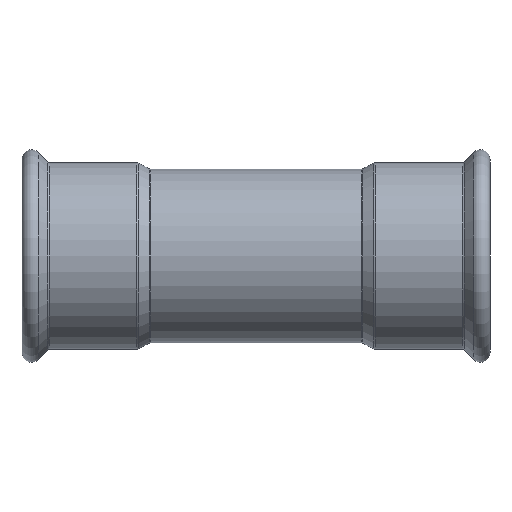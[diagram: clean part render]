
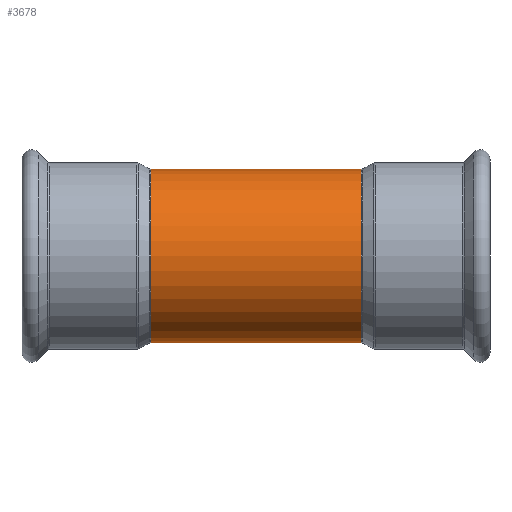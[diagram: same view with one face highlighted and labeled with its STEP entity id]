
A CAD part, front view. The second image highlights one B-rep face of the part: STEP entity #3678.
In plain terms, the highlighted cylindrical face has radius 26.7 mm (diameter 53.4 mm), a partial arc.
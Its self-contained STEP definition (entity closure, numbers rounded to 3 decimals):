
#250 = FACE_OUTER_BOUND ( 'NONE', #2344, .T. ) ;
#288 = EDGE_CURVE ( 'NONE', #609, #2639, #1083, .T. ) ;
#294 = CARTESIAN_POINT ( 'NONE',  ( 0., 0., 0. ) ) ;
#332 = ORIENTED_EDGE ( 'NONE', *, *, #3600, .T. ) ;
#434 = DIRECTION ( 'NONE',  ( 0., 0., 1. ) ) ;
#479 = VECTOR ( 'NONE', #1134, 1000. ) ;
#609 = VERTEX_POINT ( 'NONE', #3923 ) ;
#801 = LINE ( 'NONE', #2493, #479 ) ;
#826 = ORIENTED_EDGE ( 'NONE', *, *, #288, .F. ) ;
#981 = DIRECTION ( 'NONE',  ( 0., 0., 1. ) ) ;
#1083 = LINE ( 'NONE', #3361, #3284 ) ;
#1134 = DIRECTION ( 'NONE',  ( -1., 0., 0. ) ) ;
#2173 = EDGE_CURVE ( 'NONE', #3635, #2639, #2858, .T. ) ;
#2344 = EDGE_LOOP ( 'NONE', ( #826, #3183, #332, #3837 ) ) ;
#2448 = CARTESIAN_POINT ( 'NONE',  ( -32.377, 0., -26.7 ) ) ;
#2464 = CARTESIAN_POINT ( 'NONE',  ( 32.377, 0., 26.7 ) ) ;
#2493 = CARTESIAN_POINT ( 'NONE',  ( 0., 0., 26.7 ) ) ;
#2501 = DIRECTION ( 'NONE',  ( -1., 0., 0. ) ) ;
#2524 = AXIS2_PLACEMENT_3D ( 'NONE', #2846, #3515, #4160 ) ;
#2558 = AXIS2_PLACEMENT_3D ( 'NONE', #3415, #4116, #434 ) ;
#2639 = VERTEX_POINT ( 'NONE', #2448 ) ;
#2764 = AXIS2_PLACEMENT_3D ( 'NONE', #294, #2886, #981 ) ;
#2772 = EDGE_CURVE ( 'NONE', #609, #3056, #3491, .T. ) ;
#2846 = CARTESIAN_POINT ( 'NONE',  ( -32.377, 0., 0. ) ) ;
#2858 = CIRCLE ( 'NONE', #2524, 26.7 ) ;
#2886 = DIRECTION ( 'NONE',  ( -1., 0., 0. ) ) ;
#3056 = VERTEX_POINT ( 'NONE', #2464 ) ;
#3183 = ORIENTED_EDGE ( 'NONE', *, *, #2772, .T. ) ;
#3227 = CYLINDRICAL_SURFACE ( 'NONE', #2764, 26.7 ) ;
#3284 = VECTOR ( 'NONE', #2501, 1000. ) ;
#3361 = CARTESIAN_POINT ( 'NONE',  ( 0., 0., -26.7 ) ) ;
#3415 = CARTESIAN_POINT ( 'NONE',  ( 32.377, 0., 0. ) ) ;
#3491 = CIRCLE ( 'NONE', #2558, 26.7 ) ;
#3515 = DIRECTION ( 'NONE',  ( 1., 0., 0. ) ) ;
#3600 = EDGE_CURVE ( 'NONE', #3056, #3635, #801, .T. ) ;
#3635 = VERTEX_POINT ( 'NONE', #3791 ) ;
#3678 = ADVANCED_FACE ( 'NONE', ( #250 ), #3227, .T. ) ;
#3791 = CARTESIAN_POINT ( 'NONE',  ( -32.377, 0., 26.7 ) ) ;
#3837 = ORIENTED_EDGE ( 'NONE', *, *, #2173, .T. ) ;
#3923 = CARTESIAN_POINT ( 'NONE',  ( 32.377, 0., -26.7 ) ) ;
#4116 = DIRECTION ( 'NONE',  ( -1., 0., 0. ) ) ;
#4160 = DIRECTION ( 'NONE',  ( 0., 0., 1. ) ) ;
